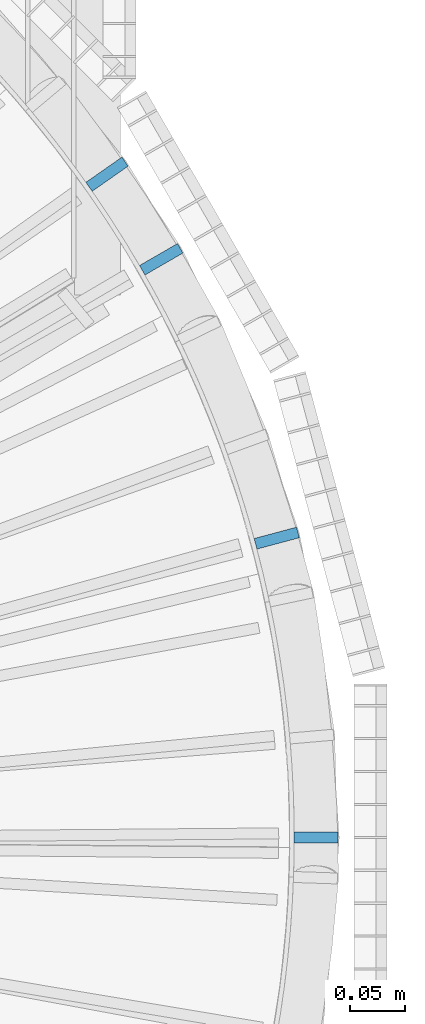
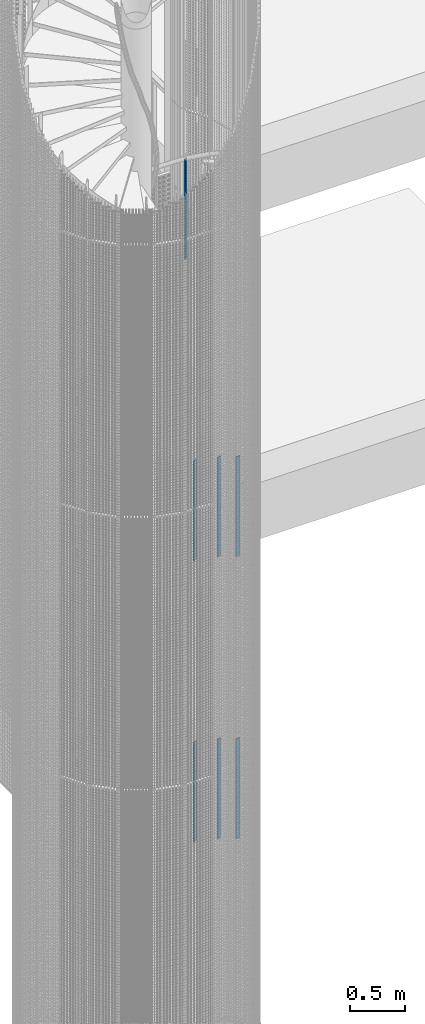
# One storey, part 69 of 1183: 7 columns, 7 elements without a shape of their own.
"""IFC2X3 building model written with IfcOpenShell, lengths in millimetres."""

from ifc_helpers import new_model, si_unit, frame, origin_with_axes, origin_2d_with_axis, place, context, subcontext, project, spatial, rectangle, extrude, material, type_object, element, aggregate, save


model = new_model("IFC2X3")

# Units and contexts
model_context = context("Model", 3, precision=1e-05, world=origin_with_axes())
body_context = subcontext(model_context, "Body", "Model", "MODEL_VIEW")
ifc_project = project(units=[si_unit("LENGTHUNIT", "METRE", prefix="MILLI"), si_unit("AREAUNIT", "SQUARE_METRE"), si_unit("VOLUMEUNIT", "CUBIC_METRE"), si_unit("MASSUNIT", "GRAM", prefix="KILO"), si_unit("TIMEUNIT", "SECOND"), si_unit("PLANEANGLEUNIT", "RADIAN"), si_unit("SOLIDANGLEUNIT", "STERADIAN"), si_unit("THERMODYNAMICTEMPERATUREUNIT", "DEGREE_CELSIUS"), si_unit("LUMINOUSINTENSITYUNIT", "LUMEN")], contexts=[model_context])

# Site, building, storey
site_placement = place(None, origin_with_axes())
site = spatial("IfcSite", under=ifc_project, at=site_placement, Name="Undefined", CompositionType="ELEMENT")
building_placement = place(site_placement, origin_with_axes())
building = spatial("IfcBuilding", under=site, at=building_placement, Name="Undefined", CompositionType="ELEMENT")
storey_placement = place(building_placement, origin_with_axes())
storey = spatial("IfcBuildingStorey", under=building, at=storey_placement, Name="Undefined", CompositionType="ELEMENT", Elevation=0.0)

# Assembly, column
assembly_1_placement = place(storey_placement, origin_with_axes())
assembly_1 = element("IfcElementAssembly", 1, at=assembly_1_placement, inside=storey, Name="MONTANT", AssemblyPlace="NOTDEFINED", PredefinedType="NOTDEFINED")
ifc_material = material(Name="STEEL/S235JR")
column_type = type_object("IfcColumnType", Name="PL10*40", PredefinedType="NOTDEFINED")
column_1_placement = place(assembly_1_placement, frame((22463.3862546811, 604.549563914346, 10403.04), z_axis=(0.0, 0.0, 1.0), x_axis=(-0.819152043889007, -0.573576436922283, 0.0)))
column_1 = element("IfcColumn", 2, at=column_1_placement, type_object=column_type, material=ifc_material, Name="MONTANT", context=body_context, shape_type="SweptSolid", body=[
    extrude(rectangle(XDim=10.0, YDim=40.0, at=origin_2d_with_axis()), frame((0.0, 0.0, 1100.0), z_axis=(0.0, 0.0, -1.0), x_axis=(0.0, 1.0, 0.0)), (0.0, 0.0, 1.0), 1100.0),
])
aggregate(assembly_1, [column_1])

assembly_2_placement = place(storey_placement, origin_with_axes())
assembly_2 = element("IfcElementAssembly", 3, at=assembly_2_placement, inside=storey, Name="MONTANT", AssemblyPlace="NOTDEFINED", PredefinedType="NOTDEFINED")
column_2_placement = place(assembly_2_placement, frame((22618.0858209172, 272.795273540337, 7272.6), z_axis=(0.0, 0.0, 1.0), x_axis=(-0.965925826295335, -0.258819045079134, 0.0)))
column_2 = element("IfcColumn", 4, at=column_2_placement, type_object=column_type, material=ifc_material, Name="MONTANT", context=body_context, shape_type="SweptSolid", body=[
    extrude(rectangle(XDim=10.0, YDim=40.0, at=origin_2d_with_axis()), frame((0.0, 0.0, 1100.0), z_axis=(0.0, 0.0, -1.0), x_axis=(0.0, 1.0, 0.0)), (0.0, 0.0, 1.0), 1100.0),
])
aggregate(assembly_2, [column_2])

assembly_3_placement = place(storey_placement, origin_with_axes())
assembly_3 = element("IfcElementAssembly", 5, at=assembly_3_placement, inside=storey, Name="MONTANT", AssemblyPlace="NOTDEFINED", PredefinedType="NOTDEFINED")
column_3_placement = place(assembly_3_placement, frame((22653.9999999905, 4.54747350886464e-13, 7429.12), z_axis=(0.0, 0.0, 1.0), x_axis=(-1.0, 0.0, 0.0)))
column_3 = element("IfcColumn", 6, at=column_3_placement, type_object=column_type, material=ifc_material, Name="MONTANT", context=body_context, shape_type="SweptSolid", body=[
    extrude(rectangle(XDim=10.0, YDim=40.0, at=origin_2d_with_axis()), frame((0.0, 0.0, 1100.0), z_axis=(0.0, 0.0, -1.0), x_axis=(0.0, 1.0, 0.0)), (0.0, 0.0, 1.0), 1100.0),
])
aggregate(assembly_3, [column_3])

assembly_4_placement = place(storey_placement, origin_with_axes())
assembly_4 = element("IfcElementAssembly", 7, at=assembly_4_placement, inside=storey, Name="MONTANT", AssemblyPlace="NOTDEFINED", PredefinedType="NOTDEFINED")
column_4_placement = place(assembly_4_placement, frame((22512.7907755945, 527.000000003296, 7116.08), z_axis=(0.0, 0.0, 1.0), x_axis=(-0.866025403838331, -0.499999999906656, 0.0)))
column_4 = element("IfcColumn", 8, at=column_4_placement, type_object=column_type, material=ifc_material, Name="MONTANT", context=body_context, shape_type="SweptSolid", body=[
    extrude(rectangle(XDim=10.0, YDim=40.0, at=origin_2d_with_axis()), frame((0.0, 0.0, 1100.0), z_axis=(0.0, 0.0, -1.0), x_axis=(0.0, 1.0, 0.0)), (0.0, 0.0, 1.0), 1100.0),
])
aggregate(assembly_4, [column_4])

assembly_5_placement = place(storey_placement, origin_with_axes())
assembly_5 = element("IfcElementAssembly", 9, at=assembly_5_placement, inside=storey, Name="MONTANT", AssemblyPlace="NOTDEFINED", PredefinedType="NOTDEFINED")
column_5_placement = place(assembly_5_placement, frame((22512.7907755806, 526.999999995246, 4017.52), z_axis=(0.0, 0.0, 1.0), x_axis=(-0.866025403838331, -0.499999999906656, 0.0)))
column_5 = element("IfcColumn", 10, at=column_5_placement, type_object=column_type, material=ifc_material, Name="MONTANT", context=body_context, shape_type="SweptSolid", body=[
    extrude(rectangle(XDim=10.0, YDim=40.0, at=origin_2d_with_axis()), frame((0.0, 0.0, 1100.0), z_axis=(0.0, 0.0, -1.0), x_axis=(0.0, 1.0, 0.0)), (0.0, 0.0, 1.0), 1100.0),
])
aggregate(assembly_5, [column_5])

assembly_6_placement = place(storey_placement, origin_with_axes())
assembly_6 = element("IfcElementAssembly", 11, at=assembly_6_placement, inside=storey, Name="MONTANT", AssemblyPlace="NOTDEFINED", PredefinedType="NOTDEFINED")
column_6_placement = place(assembly_6_placement, frame((22618.0858209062, 272.795273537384, 4172.04), z_axis=(0.0, 0.0, 1.0), x_axis=(-0.965925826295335, -0.258819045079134, 0.0)))
column_6 = element("IfcColumn", 12, at=column_6_placement, type_object=column_type, material=ifc_material, Name="MONTANT", context=body_context, shape_type="SweptSolid", body=[
    extrude(rectangle(XDim=10.0, YDim=40.0, at=origin_2d_with_axis()), frame((0.0, 0.0, 1100.0), z_axis=(0.0, 0.0, -1.0), x_axis=(0.0, 1.0, 0.0)), (0.0, 0.0, 1.0), 1100.0),
])
aggregate(assembly_6, [column_6])

assembly_7_placement = place(storey_placement, origin_with_axes())
assembly_7 = element("IfcElementAssembly", 13, at=assembly_7_placement, inside=storey, Name="MONTANT", AssemblyPlace="NOTDEFINED", PredefinedType="NOTDEFINED")
column_7_placement = place(assembly_7_placement, frame((22654.0000000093, 2.72848410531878e-12, 4326.56), z_axis=(0.0, 0.0, 1.0), x_axis=(-1.0, 0.0, 0.0)))
column_7 = element("IfcColumn", 14, at=column_7_placement, type_object=column_type, material=ifc_material, Name="MONTANT", context=body_context, shape_type="SweptSolid", body=[
    extrude(rectangle(XDim=10.0, YDim=40.0, at=origin_2d_with_axis()), frame((0.0, 0.0, 1100.0), z_axis=(0.0, 0.0, -1.0), x_axis=(0.0, 1.0, 0.0)), (0.0, 0.0, 1.0), 1100.0),
])
aggregate(assembly_7, [column_7])

save(model, "model.ifc")
